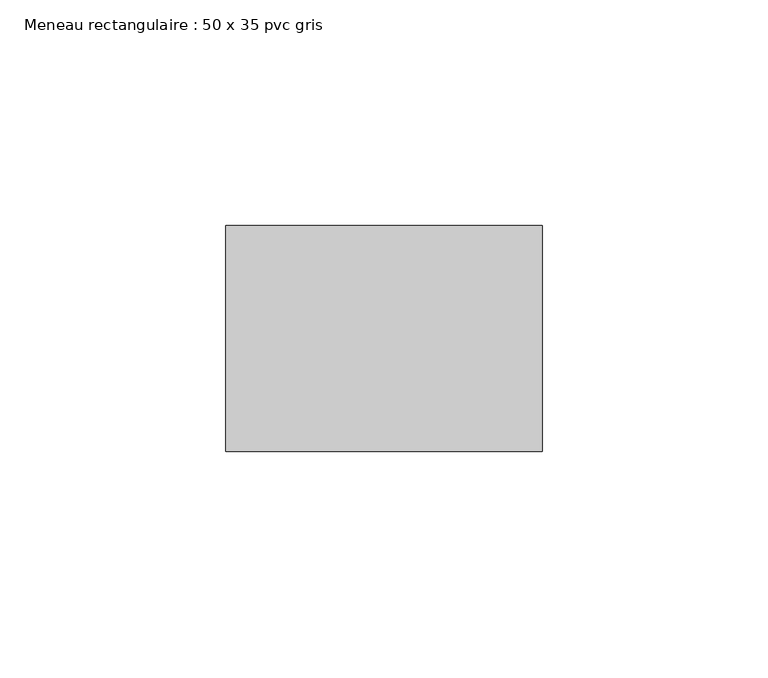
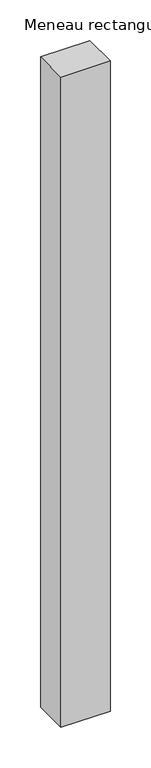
"""IFC4 building model written with IfcOpenShell, lengths in millimetres: member geometry, Meneau rectangulaire : 50 x 35 pvc gris."""

from ifc_helpers import new_model, si_unit, frame, origin, place, context, project, spatial, polyline, outline, extrude, source, transform, mapped, element, save


def meneau_rectangulaire_50_x_35_pvc_gris_2f2ae551(model_context):
    return source(origin(), model_context, "Body", "SweptSolid", [
        extrude(outline(polyline([(35.0, 0.0), (35.0, -50.0), (-35.0, -50.0), (-35.0, 0.0), (35.0, 0.0)])), frame((0.0, 0.0, -976.9604608), z_axis=(0.0, 0.0, 1.0), x_axis=(1.0, 0.0, 0.0)), (0.0, 0.0, 1.0), 976.9604608),
    ])


if __name__ == "__main__":
    model = new_model("IFC4")
    model_context = context("Model", 3, world=origin())
    ifc_project = project(units=[si_unit("LENGTHUNIT", "METRE", prefix="MILLI")], contexts=[model_context])
    site = spatial("IfcSite", under=ifc_project)
    building = spatial("IfcBuilding", under=site)
    placement = place(None, origin())
    meneau_rectangulaire_50_x_35_pvc_gris_shape = meneau_rectangulaire_50_x_35_pvc_gris_2f2ae551(model_context)
    element("IfcMember", 1, ObjectType="Meneau rectangulaire : 50 x 35 pvc gris", at=placement, inside=building, context=model_context, shape_type="MappedRepresentation", body=[
        mapped(meneau_rectangulaire_50_x_35_pvc_gris_shape, transform((0.0, 0.0, 0.0), x_axis=(1.0, 0.0, 0.0), y_axis=(0.0, 1.0, 0.0), z_axis=(0.0, 0.0, 1.0))),
    ])
    save(model, "model.ifc")
